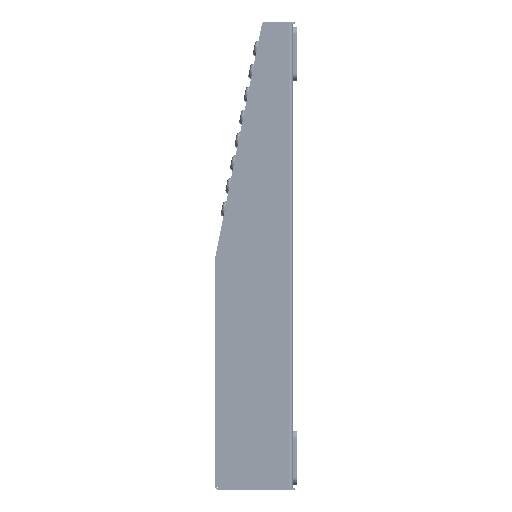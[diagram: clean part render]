
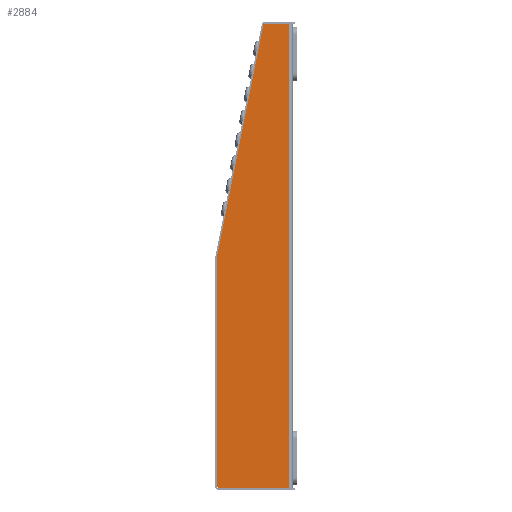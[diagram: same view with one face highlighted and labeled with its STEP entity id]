
A CAD part, left-side view. The second image highlights one B-rep face of the part: STEP entity #2884.
In plain terms, the highlighted planar face has unit normal (-1, 0, 0).
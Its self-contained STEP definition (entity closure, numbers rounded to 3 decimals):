
#1151 = DIRECTION ( 'NONE',  ( 0., -1., 0. ) ) ;
#2574 = CARTESIAN_POINT ( 'NONE',  ( -426.252, -42.613, 910. ) ) ;
#2884 = ADVANCED_FACE ( 'NONE', ( #87852 ), #78744, .F. ) ;
#9706 = VERTEX_POINT ( 'NONE', #134740 ) ;
#10355 = CARTESIAN_POINT ( 'NONE',  ( -426.252, 54.387, 314. ) ) ;
#12094 = DIRECTION ( 'NONE',  ( 0., -1., 0. ) ) ;
#17927 = VECTOR ( 'NONE', #41137, 1000. ) ;
#21915 = AXIS2_PLACEMENT_3D ( 'NONE', #98945, #65475, #1151 ) ;
#21957 = CARTESIAN_POINT ( 'NONE',  ( -426.252, -39.613, 314. ) ) ;
#22863 = CARTESIAN_POINT ( 'NONE',  ( -426.252, 52.887, 611.653 ) ) ;
#22976 = CARTESIAN_POINT ( 'NONE',  ( -426.252, -6.689, 917.185 ) ) ;
#26032 = VECTOR ( 'NONE', #114366, 1000. ) ;
#27526 = ORIENTED_EDGE ( 'NONE', *, *, #61619, .T. ) ;
#27684 = EDGE_CURVE ( 'NONE', #9706, #62475, #69396, .T. ) ;
#30472 = ORIENTED_EDGE ( 'NONE', *, *, #34726, .T. ) ;
#31376 = LINE ( 'NONE', #10355, #17927 ) ;
#33475 = LINE ( 'NONE', #22976, #128642 ) ;
#34726 = EDGE_CURVE ( 'NONE', #78668, #118113, #33475, .T. ) ;
#36846 = DIRECTION ( 'NONE',  ( 1., 0., 0. ) ) ;
#37395 = CARTESIAN_POINT ( 'NONE',  ( -426.252, 50.387, 318. ) ) ;
#41137 = DIRECTION ( 'NONE',  ( 0., 0., -1. ) ) ;
#44893 = VERTEX_POINT ( 'NONE', #58409 ) ;
#45104 = VERTEX_POINT ( 'NONE', #127585 ) ;
#46241 = AXIS2_PLACEMENT_3D ( 'NONE', #22863, #47923, #58383 ) ;
#46806 = VECTOR ( 'NONE', #125407, 1000. ) ;
#47923 = DIRECTION ( 'NONE',  ( -1., 0., 0. ) ) ;
#52601 = CARTESIAN_POINT ( 'NONE',  ( -426.252, -38.113, 314. ) ) ;
#52707 = VERTEX_POINT ( 'NONE', #72512 ) ;
#58179 = AXIS2_PLACEMENT_3D ( 'NONE', #37395, #79290, #121953 ) ;
#58383 = DIRECTION ( 'NONE',  ( 0., -1., 0. ) ) ;
#58409 = CARTESIAN_POINT ( 'NONE',  ( -426.252, -38.113, 910. ) ) ;
#61619 = EDGE_CURVE ( 'NONE', #52707, #9706, #31376, .T. ) ;
#62475 = VERTEX_POINT ( 'NONE', #122208 ) ;
#65029 = EDGE_CURVE ( 'NONE', #118113, #52707, #108475, .T. ) ;
#65475 = DIRECTION ( 'NONE',  ( -1., 0., 0. ) ) ;
#67091 = VERTEX_POINT ( 'NONE', #52601 ) ;
#69396 = CIRCLE ( 'NONE', #58179, 4. ) ;
#71727 = CARTESIAN_POINT ( 'NONE',  ( -426.252, 54.387, 910. ) ) ;
#72512 = CARTESIAN_POINT ( 'NONE',  ( -426.252, 54.387, 611.653 ) ) ;
#72595 = ORIENTED_EDGE ( 'NONE', *, *, #65029, .T. ) ;
#74292 = ORIENTED_EDGE ( 'NONE', *, *, #107445, .T. ) ;
#75062 = EDGE_LOOP ( 'NONE', ( #27526, #135535, #74292, #86461, #119733, #122815, #30472, #72595 ) ) ;
#78668 = VERTEX_POINT ( 'NONE', #91077 ) ;
#78744 = PLANE ( 'NONE',  #104050 ) ;
#79290 = DIRECTION ( 'NONE',  ( -1., 0., 0. ) ) ;
#86461 = ORIENTED_EDGE ( 'NONE', *, *, #124618, .F. ) ;
#87852 = FACE_OUTER_BOUND ( 'NONE', #75062, .T. ) ;
#91077 = CARTESIAN_POINT ( 'NONE',  ( -426.252, -5.011, 908.794 ) ) ;
#92539 = CARTESIAN_POINT ( 'NONE',  ( -426.252, -38.113, 910. ) ) ;
#93270 = CIRCLE ( 'NONE', #21915, 1.5 ) ;
#98336 = DIRECTION ( 'NONE',  ( 0., -1., 0. ) ) ;
#98945 = CARTESIAN_POINT ( 'NONE',  ( -426.252, -6.482, 908.5 ) ) ;
#101664 = VECTOR ( 'NONE', #12094, 1000. ) ;
#104050 = AXIS2_PLACEMENT_3D ( 'NONE', #2574, #36846, #98336 ) ;
#107445 = EDGE_CURVE ( 'NONE', #62475, #67091, #107842, .T. ) ;
#107842 = LINE ( 'NONE', #21957, #101664 ) ;
#108475 = CIRCLE ( 'NONE', #46241, 1.5 ) ;
#110183 = EDGE_CURVE ( 'NONE', #45104, #78668, #93270, .T. ) ;
#114366 = DIRECTION ( 'NONE',  ( 0., 1., 0. ) ) ;
#118113 = VERTEX_POINT ( 'NONE', #120824 ) ;
#119365 = DIRECTION ( 'NONE',  ( 0., 0.196, -0.981 ) ) ;
#119733 = ORIENTED_EDGE ( 'NONE', *, *, #135887, .T. ) ;
#120824 = CARTESIAN_POINT ( 'NONE',  ( -426.252, 54.358, 611.948 ) ) ;
#121953 = DIRECTION ( 'NONE',  ( 0., -1., 0. ) ) ;
#122208 = CARTESIAN_POINT ( 'NONE',  ( -426.252, 50.387, 314. ) ) ;
#122815 = ORIENTED_EDGE ( 'NONE', *, *, #110183, .T. ) ;
#124618 = EDGE_CURVE ( 'NONE', #44893, #67091, #124737, .T. ) ;
#124737 = LINE ( 'NONE', #92539, #46806 ) ;
#124850 = LINE ( 'NONE', #71727, #26032 ) ;
#125407 = DIRECTION ( 'NONE',  ( 0., 0., -1. ) ) ;
#127585 = CARTESIAN_POINT ( 'NONE',  ( -426.252, -6.482, 910. ) ) ;
#128642 = VECTOR ( 'NONE', #119365, 1000. ) ;
#134740 = CARTESIAN_POINT ( 'NONE',  ( -426.252, 54.387, 318. ) ) ;
#135535 = ORIENTED_EDGE ( 'NONE', *, *, #27684, .T. ) ;
#135887 = EDGE_CURVE ( 'NONE', #44893, #45104, #124850, .T. ) ;
